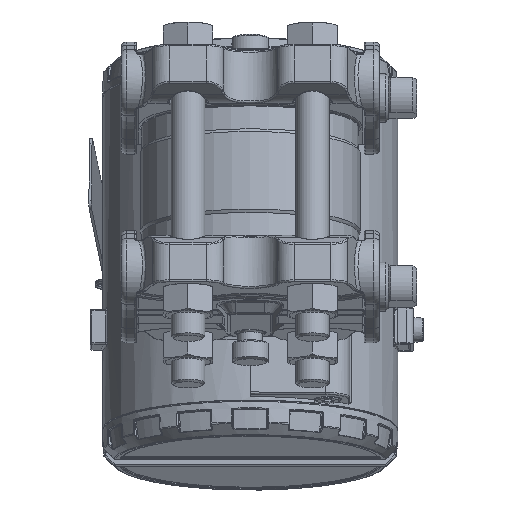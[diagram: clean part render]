
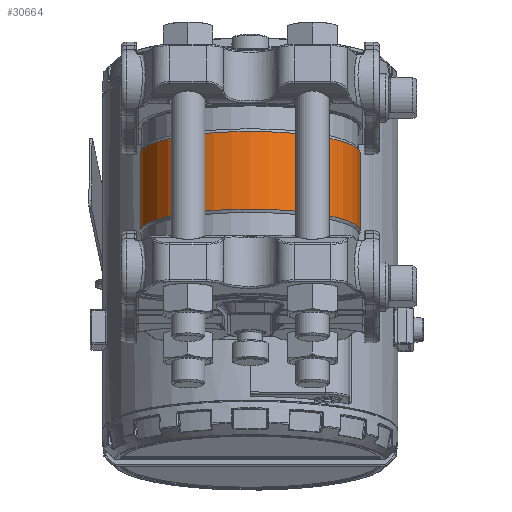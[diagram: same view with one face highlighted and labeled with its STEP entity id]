
A CAD part, left-side view. The second image highlights one B-rep face of the part: STEP entity #30664.
In plain terms, the highlighted cylindrical face has radius 31 mm (diameter 62 mm), a partial arc.
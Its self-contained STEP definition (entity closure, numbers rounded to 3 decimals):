
#1566=CYLINDRICAL_SURFACE('',#33222,31.);
#2451=FACE_OUTER_BOUND('',#4540,.T.);
#4540=EDGE_LOOP('',(#20464,#20465,#20466,#20467,#20468,#20469,#20470,#20471,
#20472,#20473));
#6718=LINE('',#47176,#7883);
#6719=LINE('',#47189,#7884);
#7883=VECTOR('',#37465,10.);
#7884=VECTOR('',#37466,10.);
#9045=CIRCLE('',#33202,31.);
#9048=CIRCLE('',#33205,31.);
#9054=CIRCLE('',#33215,31.);
#9055=CIRCLE('',#33216,31.);
#11525=B_SPLINE_CURVE_WITH_KNOTS('',3,(#47152,#47153,#47154,#47155,#47156),
 .UNSPECIFIED.,.F.,.F.,(4,1,4),(0.57,0.913,1.279),
 .UNSPECIFIED.);
#11527=B_SPLINE_CURVE_WITH_KNOTS('',3,(#47169,#47170,#47171,#47172,#47173,
#47174),.UNSPECIFIED.,.F.,.F.,(4,1,1,4),(0.,0.274,0.548,
0.708),.UNSPECIFIED.);
#11528=B_SPLINE_CURVE_WITH_KNOTS('',3,(#47177,#47178,#47179,#47180,#47181),
 .UNSPECIFIED.,.F.,.F.,(4,1,4),(0.57,0.913,1.279),
 .UNSPECIFIED.);
#11529=B_SPLINE_CURVE_WITH_KNOTS('',3,(#47183,#47184,#47185,#47186,#47187,
#47188),.UNSPECIFIED.,.F.,.F.,(4,1,1,4),(0.,0.274,
0.548,0.708),.UNSPECIFIED.);
#12594=VERTEX_POINT('',#47003);
#12596=VERTEX_POINT('',#47016);
#12597=VERTEX_POINT('',#47027);
#12609=VERTEX_POINT('',#47090);
#12610=VERTEX_POINT('',#47092);
#12611=VERTEX_POINT('',#47104);
#12613=VERTEX_POINT('',#47151);
#12616=VERTEX_POINT('',#47168);
#12617=VERTEX_POINT('',#47175);
#12618=VERTEX_POINT('',#47182);
#15510=EDGE_CURVE('',#12597,#12596,#9045,.T.);
#15514=EDGE_CURVE('',#12594,#12597,#9048,.T.);
#15526=EDGE_CURVE('',#12610,#12609,#9054,.T.);
#15529=EDGE_CURVE('',#12609,#12611,#9055,.T.);
#15533=EDGE_CURVE('',#12594,#12613,#11525,.T.);
#15537=EDGE_CURVE('',#12616,#12596,#11527,.T.);
#15538=EDGE_CURVE('',#12617,#12616,#6718,.T.);
#15539=EDGE_CURVE('',#12610,#12617,#11528,.T.);
#15540=EDGE_CURVE('',#12618,#12611,#11529,.T.);
#15541=EDGE_CURVE('',#12613,#12618,#6719,.T.);
#20464=ORIENTED_EDGE('',*,*,#15514,.T.);
#20465=ORIENTED_EDGE('',*,*,#15510,.T.);
#20466=ORIENTED_EDGE('',*,*,#15537,.F.);
#20467=ORIENTED_EDGE('',*,*,#15538,.F.);
#20468=ORIENTED_EDGE('',*,*,#15539,.F.);
#20469=ORIENTED_EDGE('',*,*,#15526,.T.);
#20470=ORIENTED_EDGE('',*,*,#15529,.T.);
#20471=ORIENTED_EDGE('',*,*,#15540,.F.);
#20472=ORIENTED_EDGE('',*,*,#15541,.F.);
#20473=ORIENTED_EDGE('',*,*,#15533,.F.);
#30664=ADVANCED_FACE('',(#2451),#1566,.T.);
#33202=AXIS2_PLACEMENT_3D('',#47028,#37419,#37420);
#33205=AXIS2_PLACEMENT_3D('',#47034,#37426,#37427);
#33215=AXIS2_PLACEMENT_3D('',#47093,#37448,#37449);
#33216=AXIS2_PLACEMENT_3D('',#47115,#37450,#37451);
#33222=AXIS2_PLACEMENT_3D('',#47167,#37463,#37464);
#37419=DIRECTION('center_axis',(0.,0.,1.));
#37420=DIRECTION('ref_axis',(-1.,0.,0.));
#37426=DIRECTION('center_axis',(0.,0.,1.));
#37427=DIRECTION('ref_axis',(-1.,0.,0.));
#37448=DIRECTION('center_axis',(0.,0.,-1.));
#37449=DIRECTION('ref_axis',(-1.,0.,0.));
#37450=DIRECTION('center_axis',(0.,0.,-1.));
#37451=DIRECTION('ref_axis',(-1.,0.,0.));
#37463=DIRECTION('center_axis',(0.,0.,1.));
#37464=DIRECTION('ref_axis',(-1.,0.,0.));
#37465=DIRECTION('',(0.,0.,-1.));
#37466=DIRECTION('',(0.,0.,1.));
#47003=CARTESIAN_POINT('',(29.591,9.241,-11.134));
#47016=CARTESIAN_POINT('',(29.591,-9.241,-11.134));
#47027=CARTESIAN_POINT('',(-31.,0.,-11.134));
#47028=CARTESIAN_POINT('Origin',(0.,0.,-11.134));
#47034=CARTESIAN_POINT('Origin',(0.,0.,-11.134));
#47090=CARTESIAN_POINT('',(-31.,0.,11.134));
#47092=CARTESIAN_POINT('',(29.591,-9.241,11.134));
#47093=CARTESIAN_POINT('Origin',(0.,0.,11.134));
#47104=CARTESIAN_POINT('',(29.591,9.241,11.134));
#47115=CARTESIAN_POINT('Origin',(0.,0.,11.134));
#47151=CARTESIAN_POINT('',(28.645,11.853,-5.));
#47152=CARTESIAN_POINT('Ctrl Pts',(29.591,9.241,-11.133));
#47153=CARTESIAN_POINT('Ctrl Pts',(29.348,10.019,-10.419));
#47154=CARTESIAN_POINT('Ctrl Pts',(28.86,11.344,-8.57));
#47155=CARTESIAN_POINT('Ctrl Pts',(28.645,11.853,-6.218));
#47156=CARTESIAN_POINT('Ctrl Pts',(28.645,11.853,-5.));
#47167=CARTESIAN_POINT('Origin',(0.,0.,0.));
#47168=CARTESIAN_POINT('',(28.645,-11.853,-5.));
#47169=CARTESIAN_POINT('Ctrl Pts',(28.645,-11.853,-5.));
#47170=CARTESIAN_POINT('Ctrl Pts',(28.645,-11.853,-5.913));
#47171=CARTESIAN_POINT('Ctrl Pts',(28.767,-11.563,-7.738));
#47172=CARTESIAN_POINT('Ctrl Pts',(29.174,-10.51,-9.79));
#47173=CARTESIAN_POINT('Ctrl Pts',(29.477,-9.605,-10.8));
#47174=CARTESIAN_POINT('Ctrl Pts',(29.59,-9.241,-11.134));
#47175=CARTESIAN_POINT('',(28.645,-11.853,5.));
#47176=CARTESIAN_POINT('',(28.645,-11.853,0.));
#47177=CARTESIAN_POINT('Ctrl Pts',(29.591,-9.241,11.133));
#47178=CARTESIAN_POINT('Ctrl Pts',(29.348,-10.019,10.419));
#47179=CARTESIAN_POINT('Ctrl Pts',(28.86,-11.344,8.57));
#47180=CARTESIAN_POINT('Ctrl Pts',(28.645,-11.853,6.218));
#47181=CARTESIAN_POINT('Ctrl Pts',(28.645,-11.853,5.));
#47182=CARTESIAN_POINT('',(28.645,11.853,5.));
#47183=CARTESIAN_POINT('Ctrl Pts',(28.645,11.853,5.));
#47184=CARTESIAN_POINT('Ctrl Pts',(28.645,11.853,5.913));
#47185=CARTESIAN_POINT('Ctrl Pts',(28.767,11.563,7.738));
#47186=CARTESIAN_POINT('Ctrl Pts',(29.174,10.51,9.79));
#47187=CARTESIAN_POINT('Ctrl Pts',(29.477,9.605,10.8));
#47188=CARTESIAN_POINT('Ctrl Pts',(29.59,9.241,11.134));
#47189=CARTESIAN_POINT('',(28.645,11.853,0.));
